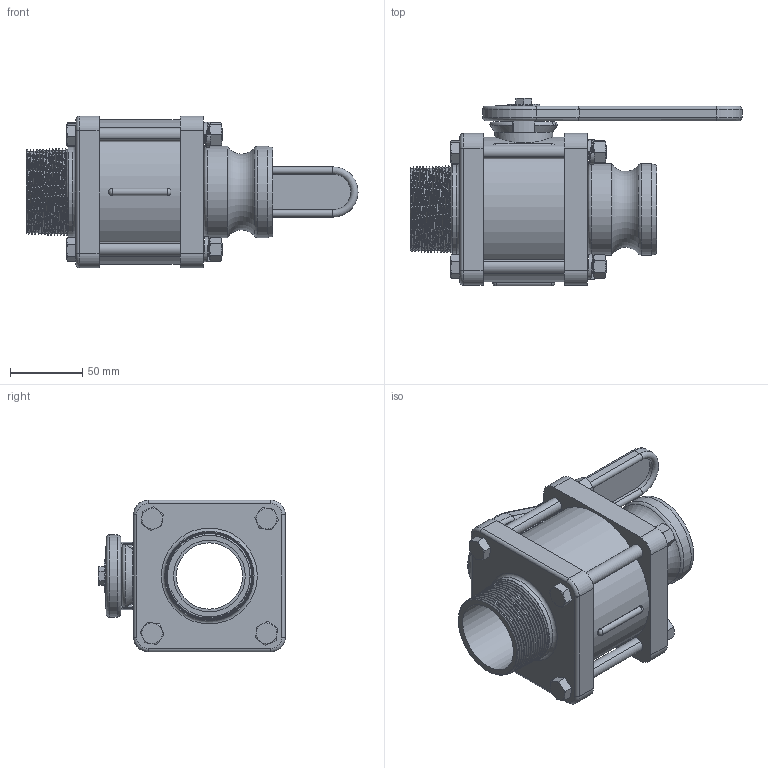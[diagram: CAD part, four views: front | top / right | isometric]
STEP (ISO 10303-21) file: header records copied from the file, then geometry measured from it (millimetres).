
FILE_DESCRIPTION(/* description */ ('Alibre Inc.'),/* implementation_level */ '2;1');
FILE_NAME(/* name */ 'export0',/* time_stamp */ '2017-07-10T14:06:58-04:00',/* author */ (''),/* organization */ (''),/* preprocessor_version */ 'ST-DEVELOPER v14',/* originating_system */ 'Alibre',/* authorisation */ '');
FILE_SCHEMA (('CONFIG_CONTROL_DESIGN'));
Products named in the file (15): ID_1; ID_2; ID_3; ID_4; ID_5; ID_6; ID_7; ID_8; ID_9; ID_10; ID_11; ID_12
Bounding box: 229.49 x 129.81 x 104.9 mm (x, y, z)
Volume: 738240.4 mm3; surface area: 226484.7 mm2
Topology: 26 solids, 26 shells, 924 faces, 2338 edges, 1485 vertices
Faces by surface type: cylinder 333, plane 267, cone 160, bspline 119, torus 40, sphere 5
Full cylindrical faces by diameter (mm): 4.978 x1, 8.382 x1, 9.855 x8, 16.002 x1, 22.352 x1, 23.368 x1, 23.622 x2, 31.496 x1, 31.572 x1, 39.878 x1, 45.847 x1, 49.53 x2, 50.038 x1, 50.8 x2, 57.15 x2, 57.912 x2, 61.722 x1, 63.094 x2, 80.01 x2, 81.28 x1, 86.769 x2, 92.865 x2, 93.472 x2, 100.076 x1
Entity records: 52297 total; most frequent: CARTESIAN_POINT 37796, ORIENTED_EDGE 2914, DIRECTION 2031, EDGE_CURVE 1449, VERTEX_POINT 954, AXIS2_PLACEMENT_3D 819, FACE_BOUND 731, EDGE_LOOP 729
